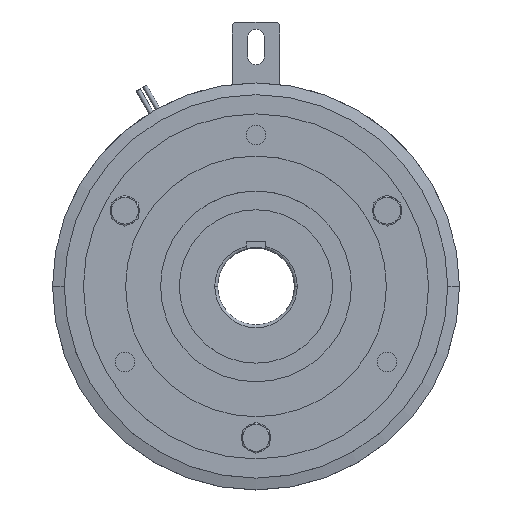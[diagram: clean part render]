
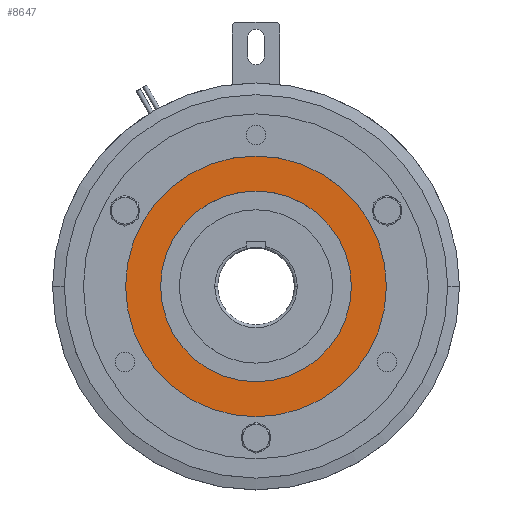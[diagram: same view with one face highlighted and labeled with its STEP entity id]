
A CAD part, top view. The second image highlights one B-rep face of the part: STEP entity #8647.
In plain terms, the highlighted planar face has unit normal (0, 0, 1).
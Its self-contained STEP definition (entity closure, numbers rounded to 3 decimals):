
#71 = AXIS2_PLACEMENT_3D ( 'NONE', #12879, #12880, #12881 ) ;
#203 = EDGE_CURVE ( 'NONE', #6610, #6535, #6593, .T. ) ;
#1059 = VERTEX_POINT ( 'NONE', #4171 ) ;
#1135 = VERTEX_POINT ( 'NONE', #4665 ) ;
#1859 = CARTESIAN_POINT ( 'NONE',  ( 0., 0., 54. ) ) ;
#1860 = DIRECTION ( 'NONE',  ( 0., 0., 1. ) ) ;
#1861 = DIRECTION ( 'NONE',  ( 1., 0., 0. ) ) ;
#1905 = CARTESIAN_POINT ( 'NONE',  ( 0., 0., 54. ) ) ;
#1906 = DIRECTION ( 'NONE',  ( 0., 0., -1. ) ) ;
#1907 = DIRECTION ( 'NONE',  ( -1., 0., 0. ) ) ;
#1987 = CARTESIAN_POINT ( 'NONE',  ( 0., 0., 54. ) ) ;
#1988 = DIRECTION ( 'NONE',  ( 0., 0., 1. ) ) ;
#1989 = DIRECTION ( 'NONE',  ( 1., 0., 0. ) ) ;
#4171 = CARTESIAN_POINT ( 'NONE',  ( -49.75, 0., 54. ) ) ;
#4665 = CARTESIAN_POINT ( 'NONE',  ( 49.75, 0., 54. ) ) ;
#5202 = ORIENTED_EDGE ( 'NONE', *, *, #14153, .F. ) ;
#5204 = ORIENTED_EDGE ( 'NONE', *, *, #203, .F. ) ;
#5317 = ORIENTED_EDGE ( 'NONE', *, *, #14201, .F. ) ;
#5715 = ORIENTED_EDGE ( 'NONE', *, *, #14169, .F. ) ;
#6000 = AXIS2_PLACEMENT_3D ( 'NONE', #1859, #1860, #1861 ) ;
#6005 = AXIS2_PLACEMENT_3D ( 'NONE', #1905, #1906, #1907 ) ;
#6016 = AXIS2_PLACEMENT_3D ( 'NONE', #1987, #1988, #1989 ) ;
#6535 = VERTEX_POINT ( 'NONE', #9510 ) ;
#6593 = CIRCLE ( 'NONE', #71, 68. ) ;
#6610 = VERTEX_POINT ( 'NONE', #11614 ) ;
#7225 = CIRCLE ( 'NONE', #6000, 49.75 ) ;
#7248 = CIRCLE ( 'NONE', #6005, 68. ) ;
#7292 = CIRCLE ( 'NONE', #6016, 49.75 ) ;
#8647 = ADVANCED_FACE ( 'NONE', ( #9064, #9062 ), #13783, .T. ) ;
#9062 = FACE_OUTER_BOUND ( 'NONE', #9966, .T. ) ;
#9064 = FACE_BOUND ( 'NONE', #9962, .T. ) ;
#9110 = AXIS2_PLACEMENT_3D ( 'NONE', #13790, #13791, #13792 ) ;
#9510 = CARTESIAN_POINT ( 'NONE',  ( 68., 0., 54. ) ) ;
#9962 = EDGE_LOOP ( 'NONE', ( #5317, #5202 ) ) ;
#9966 = EDGE_LOOP ( 'NONE', ( #5204, #5715 ) ) ;
#11614 = CARTESIAN_POINT ( 'NONE',  ( -68., 0., 54. ) ) ;
#12879 = CARTESIAN_POINT ( 'NONE',  ( 0., 0., 54. ) ) ;
#12880 = DIRECTION ( 'NONE',  ( 0., 0., -1. ) ) ;
#12881 = DIRECTION ( 'NONE',  ( -1., 0., 0. ) ) ;
#13783 = PLANE ( 'NONE',  #9110 ) ;
#13790 = CARTESIAN_POINT ( 'NONE',  ( 0., 0., 54. ) ) ;
#13791 = DIRECTION ( 'NONE',  ( 0., 0., 1. ) ) ;
#13792 = DIRECTION ( 'NONE',  ( 1., 0., 0. ) ) ;
#14153 = EDGE_CURVE ( 'NONE', #1135, #1059, #7225, .T. ) ;
#14169 = EDGE_CURVE ( 'NONE', #6535, #6610, #7248, .T. ) ;
#14201 = EDGE_CURVE ( 'NONE', #1059, #1135, #7292, .T. ) ;
